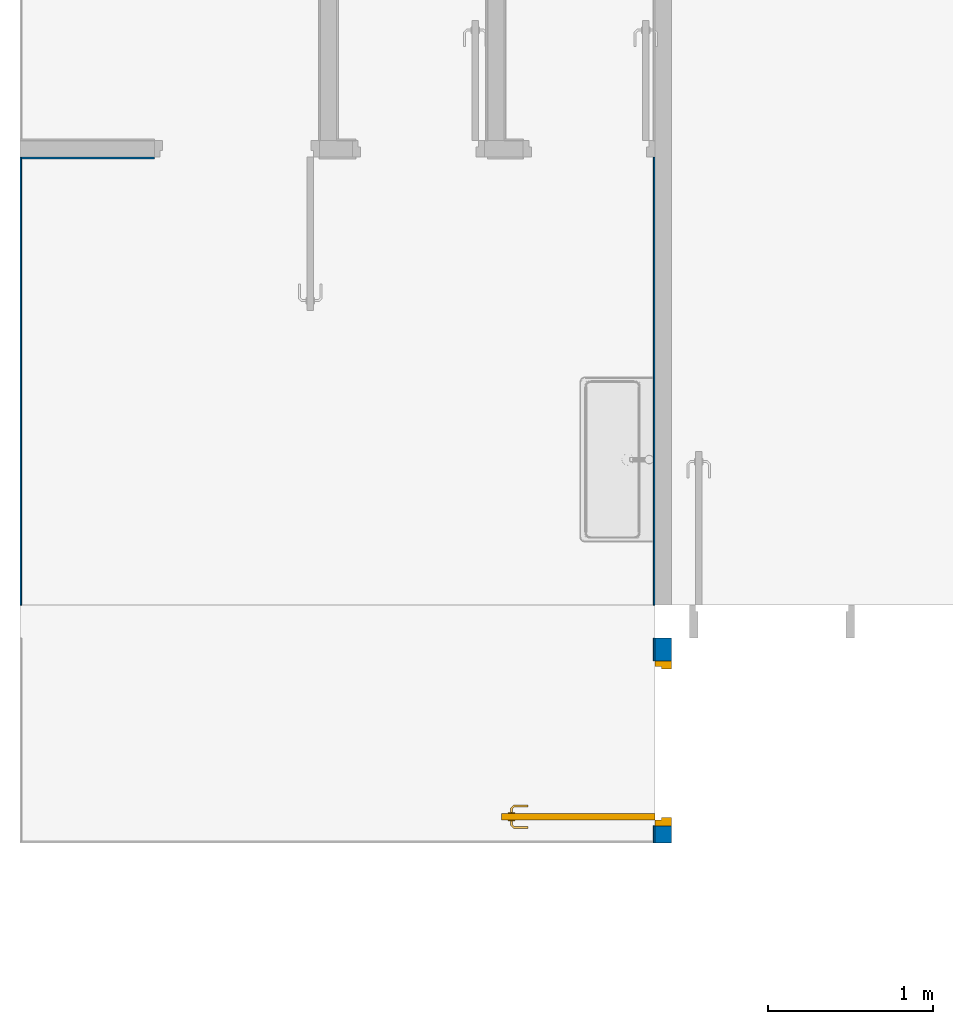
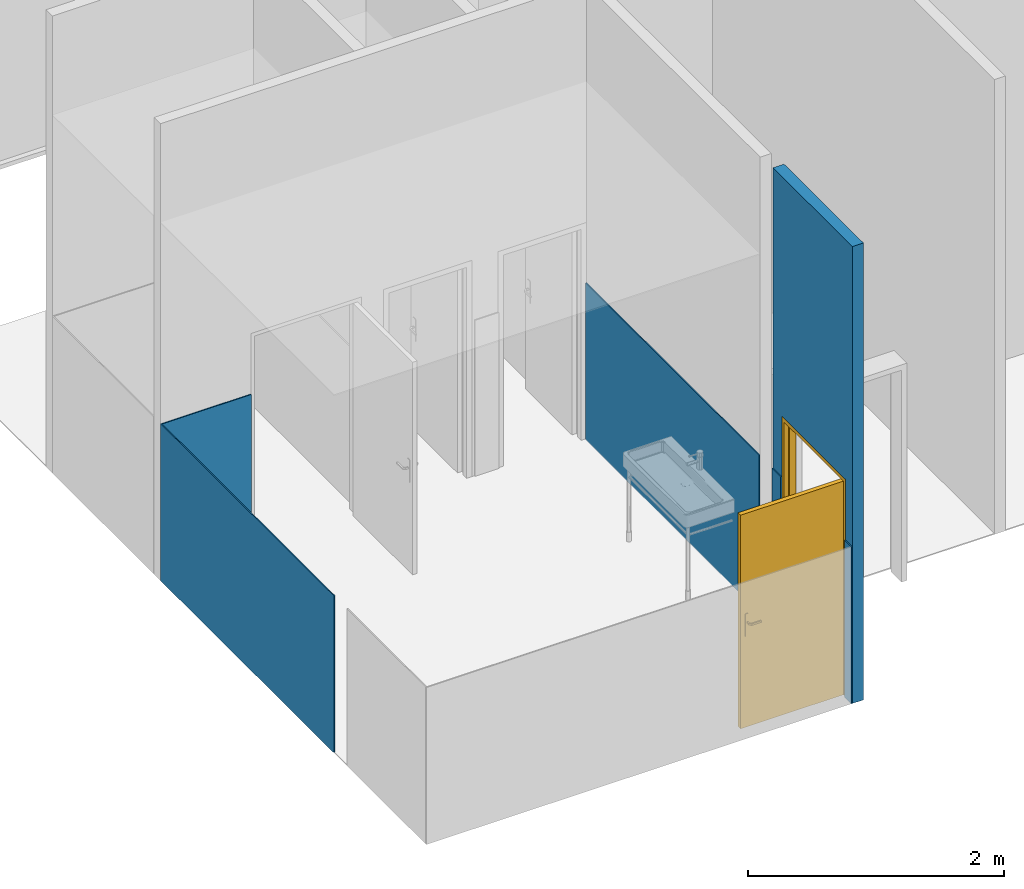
# One storey, part 2 of 18: 6 walls, 1 door, 2 openings.
"""IFC2X3 building model written with IfcOpenShell, lengths in metres."""

from ifc_helpers import new_model, entity, si_unit, converted_unit, derived_unit, direction, frame, frame_2d, origin, place, context, subcontext, project, spatial, rectangle, extrude, faceted_brep, source, transform, mapped, material, layer, layer_set, layer_usage, type_object, type_shapes, element, fill, save


model = new_model("IFC2X3")

# Units and contexts
model_context = context("Model", 3, precision=1e-05, world=origin(), true_north=direction((6.12303176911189e-17, 1.0)))
body_context = subcontext(model_context, "Body", "Model", "MODEL_VIEW")
ifc_project = project(units=[si_unit("LENGTHUNIT", "METRE"), si_unit("AREAUNIT", "SQUARE_METRE"), si_unit("VOLUMEUNIT", "CUBIC_METRE"), converted_unit("PLANEANGLEUNIT", "DEGREE", entity("IfcRatioMeasure", 0.0174532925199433), si_unit("PLANEANGLEUNIT", "RADIAN"), dimensions=[0, 0, 0, 0, 0, 0, 0]), si_unit("MASSUNIT", "GRAM", prefix="KILO"), derived_unit("MASSDENSITYUNIT", [(si_unit("MASSUNIT", "GRAM", prefix="KILO"), 1), (si_unit("LENGTHUNIT", "METRE"), -3)]), si_unit("TIMEUNIT", "SECOND"), si_unit("FREQUENCYUNIT", "HERTZ"), si_unit("THERMODYNAMICTEMPERATUREUNIT", "DEGREE_CELSIUS"), derived_unit("THERMALTRANSMITTANCEUNIT", [(si_unit("MASSUNIT", "GRAM", prefix="KILO"), 1), (si_unit("THERMODYNAMICTEMPERATUREUNIT", "KELVIN"), -1), (si_unit("TIMEUNIT", "SECOND"), -3)]), derived_unit("VOLUMETRICFLOWRATEUNIT", [(si_unit("LENGTHUNIT", "METRE"), 3), (si_unit("TIMEUNIT", "SECOND"), -1)]), si_unit("ELECTRICCURRENTUNIT", "AMPERE"), si_unit("ELECTRICVOLTAGEUNIT", "VOLT"), si_unit("POWERUNIT", "WATT"), si_unit("FORCEUNIT", "NEWTON", prefix="KILO"), si_unit("ILLUMINANCEUNIT", "LUX"), si_unit("LUMINOUSFLUXUNIT", "LUMEN"), si_unit("LUMINOUSINTENSITYUNIT", "CANDELA"), derived_unit("USERDEFINED", [(si_unit("MASSUNIT", "GRAM", prefix="KILO"), -1), (si_unit("LENGTHUNIT", "METRE"), -2), (si_unit("TIMEUNIT", "SECOND"), 3), (si_unit("LUMINOUSFLUXUNIT", "LUMEN"), 1)]), derived_unit("LINEARVELOCITYUNIT", [(si_unit("LENGTHUNIT", "METRE"), 1), (si_unit("TIMEUNIT", "SECOND"), -1)]), si_unit("PRESSUREUNIT", "PASCAL"), derived_unit("USERDEFINED", [(si_unit("LENGTHUNIT", "METRE"), -2), (si_unit("MASSUNIT", "GRAM", prefix="KILO"), 1), (si_unit("TIMEUNIT", "SECOND"), -2)])], contexts=[model_context])

# Site, building, storey
site_placement = place(None, origin())
site = spatial("IfcSite", under=ifc_project, at=site_placement, Name="Surface", CompositionType="ELEMENT")
building_placement = place(site_placement, origin())
building = spatial("IfcBuilding", under=site, at=building_placement, Name="ExPREF", CompositionType="ELEMENT")
storey_placement = place(building_placement, frame((0.0, 0.0, -4.62)))
storey = spatial("IfcBuildingStorey", under=building, at=storey_placement, Name="R-1", CompositionType="ELEMENT", Elevation=-4.62)

# Wall, opening, door
ifc_material_1 = material(Name="AA-parpaing")
ifc_layer_1 = layer(ifc_material_1, 0.1)
ifc_layer_set_1 = layer_set([ifc_layer_1], Name="Mur de base:A-mur parpaing 10")
ifc_layer_usage_1 = layer_usage(ifc_layer_set_1, "AXIS2", "NEGATIVE", 0.05)
wall_type_1 = type_object("IfcWallType", Name="Mur de base:A-mur parpaing 10", PredefinedType="STANDARD", material=ifc_layer_set_1)
wall_1_placement = place(storey_placement, frame((37.4897436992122, -194.701320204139, 0.0), z_axis=(0.0, 0.0, 1.0), x_axis=(0.0, 1.0, 0.0)))
wall_1 = element("IfcWallStandardCase", 1, at=wall_1_placement, inside=storey, type_object=wall_type_1, material=ifc_layer_usage_1, Name="Mur de base:A-mur parpaing 10", ObjectType="Mur de base:A-mur parpaing 10", context=body_context, shape_type="SweptSolid", body=[
    extrude(rectangle(XDim=1.24166890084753, YDim=0.100000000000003, at=frame_2d((0.620834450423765, 0.0), x_axis=(-1.0, 0.0))), origin(), (0.0, 0.0, 1.0), 4.3649999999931),
])
opening_1_placement = place(wall_1_placement, frame((0.103718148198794, -0.05, 0.0)))
opening_1 = element("IfcOpeningElement", 2, at=opening_1_placement, cuts=wall_1, Name="Porte intérieur bois:PP (0.93m x 2.04m):1", ObjectType="Opening", context=body_context, shape_type="SweptSolid", body=[
    extrude(rectangle(XDim=2.075, YDim=1.0, at=frame_2d((1.0375, 0.5), x_axis=(1.0, 0.0))), frame((0.0, 0.0, 0.0), z_axis=(0.0, 1.0, 0.0), x_axis=(0.0, 0.0, 1.0)), (0.0, 0.0, 1.0), 0.1),
])
ifc_material_2 = material(Name="AA-Blanc satiné")
door_style = type_object("IfcDoorStyle", Name="PP (0.93m x 2.04m)", ConstructionType="NOTDEFINED", OperationType="SINGLE_SWING_LEFT", ParameterTakesPrecedence=False, Sizeable=False, material=ifc_material_2)
shared_shape = source(origin(), body_context, "Body", "Brep", [
    faceted_brep([(0.919999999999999, -0.872025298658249, 1.00778044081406), (0.919999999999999, -0.876000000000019, 1.007), (0.919999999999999, -0.876000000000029, 0.992999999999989), (0.919999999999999, -0.872025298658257, 0.99221955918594), (0.919999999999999, -0.867974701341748, 0.992219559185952), (0.919999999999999, -0.863999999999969, 0.993000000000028), (0.919999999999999, -0.86399999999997, 1.007), (0.919999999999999, -0.867974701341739, 1.00778044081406), (0.897514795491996, -0.863999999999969, 0.993000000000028), (0.897514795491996, -0.863999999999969, 1.007), (0.895868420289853, -0.867974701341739, 1.00778044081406), (0.882054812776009, -0.854161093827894, 1.00778044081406), (0.8780042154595, -0.855838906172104, 1.00778044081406), (0.894190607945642, -0.872025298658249, 1.00778044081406), (0.892544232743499, -0.876000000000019, 1.007), (0.892544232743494, -0.876000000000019, 0.992999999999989), (0.894190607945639, -0.872025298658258, 0.99221955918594), (0.87800421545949, -0.855838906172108, 0.99221955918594), (0.882054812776, -0.854161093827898, 0.992219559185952), (0.895868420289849, -0.867974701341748, 0.992219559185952), (0.886029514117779, -0.852514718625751, 0.993000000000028), (0.886029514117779, -0.852514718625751, 1.007), (0.87402951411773, -0.857485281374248, 1.007), (0.874029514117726, -0.857485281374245, 0.992999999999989), (0.886029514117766, -0.769954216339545, 0.993000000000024), (0.882054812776, -0.769954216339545, 0.992219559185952), (0.87800421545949, -0.769954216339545, 0.99221955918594), (0.874029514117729, -0.769954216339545, 0.992999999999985), (0.87402951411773, -0.769954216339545, 1.007), (0.878004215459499, -0.769954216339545, 1.00778044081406), (0.882054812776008, -0.769954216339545, 1.00778044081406), (0.886029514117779, -0.769954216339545, 1.007), (0.886029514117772, -0.811234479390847, 0.993000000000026), (0.886029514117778, -0.811234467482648, 1.007), (0.880029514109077, -0.812057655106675, 1.0078786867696), (0.87402951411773, -0.81755479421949, 1.007), (0.874029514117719, -0.8175547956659, 0.992999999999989), (0.880029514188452, -0.812057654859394, 0.992121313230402)], [[[0, 1, 2, 3, 4, 5, 6, 7]], [[6, 5, 8, 9]], [[9, 10, 7, 6]], [[10, 11, 12, 13, 0, 7]], [[13, 14, 1, 0]], [[2, 1, 14, 15]], [[15, 16, 3, 2]], [[16, 17, 18, 19, 4, 3]], [[19, 8, 5, 4]], [[9, 8, 20, 21]], [[21, 11, 10, 9]], [[12, 22, 14, 13]], [[15, 14, 22, 23]], [[23, 17, 16, 15]], [[18, 20, 8, 19]], [[24, 25, 26, 27, 28, 29, 30, 31]], [[21, 20, 32, 24, 31, 33]], [[33, 30, 34]], [[35, 34, 29]], [[21, 33, 11]], [[33, 31, 30]], [[28, 35, 29]], [[22, 12, 35]], [[35, 12, 34]], [[12, 11, 34]], [[11, 33, 34]], [[29, 34, 30]], [[22, 35, 28, 27, 36, 23]], [[36, 26, 37]], [[27, 26, 36]], [[17, 23, 36]], [[37, 32, 18]], [[20, 18, 32]], [[32, 25, 24]], [[26, 25, 37]], [[25, 32, 37]], [[17, 36, 37]], [[17, 37, 18]]]),
    faceted_brep([(0.969999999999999, -0.872025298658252, 1.00778044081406), (0.969999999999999, -0.867974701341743, 1.00778044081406), (0.969999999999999, -0.863999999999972, 1.00699999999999), (0.969999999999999, -0.863999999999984, 0.993000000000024), (0.969999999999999, -0.867974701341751, 0.992219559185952), (0.969999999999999, -0.87202529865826, 0.99221955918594), (0.969999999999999, -0.876000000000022, 0.992999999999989), (0.969999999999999, -0.876000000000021, 1.007), (0.997650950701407, -0.876000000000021, 1.007), (0.996004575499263, -0.872025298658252, 1.00778044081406), (1.01205345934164, -0.855976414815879, 1.00778044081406), (1.00800286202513, -0.854298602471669, 1.00778044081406), (0.994326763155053, -0.867974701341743, 1.00778044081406), (0.992680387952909, -0.863999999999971, 1.007), (0.992680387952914, -0.863999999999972, 0.993000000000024), (0.994326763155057, -0.867974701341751, 0.992219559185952), (1.00800286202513, -0.854298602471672, 0.992219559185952), (1.01205345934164, -0.855976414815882, 0.99221955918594), (0.996004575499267, -0.87202529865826, 0.99221955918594), (0.997650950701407, -0.876000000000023, 0.992999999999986), (1.0160281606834, -0.857622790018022, 1.007), (1.00402816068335, -0.852652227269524, 1.007), (1.00402816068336, -0.852652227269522, 0.993000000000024), (1.01602816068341, -0.857622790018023, 0.992999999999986), (1.01602816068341, -0.769981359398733, 0.992999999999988), (1.01205345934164, -0.769981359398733, 0.99221955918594), (1.00800286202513, -0.769981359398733, 0.992219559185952), (1.00402816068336, -0.769981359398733, 0.993000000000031), (1.00402816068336, -0.769981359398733, 1.007), (1.00800286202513, -0.769981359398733, 1.00778044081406), (1.01205345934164, -0.769981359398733, 1.00778044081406), (1.01602816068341, -0.769981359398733, 1.00699999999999), (1.01602816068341, -0.817692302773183, 1.007), (1.01002816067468, -0.812139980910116, 1.0078786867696), (1.00402816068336, -0.811316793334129, 1.007), (1.00402816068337, -0.811316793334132, 0.993000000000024), (1.01002816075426, -0.812139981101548, 0.992121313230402), (1.01602816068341, -0.817692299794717, 0.992999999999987)], [[[0, 1, 2, 3, 4, 5, 6, 7]], [[8, 9, 0, 7]], [[9, 10, 11, 12, 1, 0]], [[12, 13, 2, 1]], [[3, 2, 13, 14]], [[14, 15, 4, 3]], [[15, 16, 17, 18, 5, 4]], [[18, 19, 6, 5]], [[7, 6, 19, 8]], [[20, 10, 9, 8]], [[11, 21, 13, 12]], [[14, 13, 21, 22]], [[22, 16, 15, 14]], [[17, 23, 19, 18]], [[8, 19, 23, 20]], [[24, 25, 26, 27, 28, 29, 30, 31]], [[32, 30, 33]], [[31, 30, 32]], [[10, 20, 32]], [[33, 34, 11]], [[21, 11, 34]], [[34, 29, 28]], [[30, 29, 33]], [[29, 34, 33]], [[10, 32, 33]], [[10, 33, 11]], [[22, 21, 34, 28, 27, 35]], [[35, 26, 36]], [[37, 36, 25]], [[22, 35, 16]], [[35, 27, 26]], [[24, 37, 25]], [[23, 17, 37]], [[37, 17, 36]], [[17, 16, 36]], [[16, 35, 36]], [[25, 36, 26]], [[20, 23, 37, 24, 31, 32]]]),
    faceted_brep([(0.924999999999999, -0.859647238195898, 0.866003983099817), (0.924999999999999, -0.849999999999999, 0.870000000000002), (0.924999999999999, -0.850000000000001, 1.08), (0.924999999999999, -0.8596472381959, 1.08399601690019), (0.924999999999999, -0.870000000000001, 1.08535898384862), (0.924999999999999, -0.880352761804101, 1.08399601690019), (0.924999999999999, -0.89, 1.08), (0.924999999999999, -0.889999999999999, 0.870000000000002), (0.924999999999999, -0.8803527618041, 0.866003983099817), (0.924999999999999, -0.869999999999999, 0.86464101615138), (0.919999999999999, -0.8596472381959, 1.08399601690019), (0.92, -0.850000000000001, 1.08), (0.92, -0.849999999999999, 0.870000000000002), (0.919999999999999, -0.859647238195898, 0.866003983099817), (0.919999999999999, -0.869999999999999, 0.86464101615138), (0.919999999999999, -0.8803527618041, 0.866003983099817), (0.919999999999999, -0.89, 0.870000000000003), (0.919999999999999, -0.89, 1.08), (0.919999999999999, -0.880352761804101, 1.08399601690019), (0.919999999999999, -0.870000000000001, 1.08535898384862)], [[[0, 1, 2, 3, 4, 5, 6, 7, 8, 9]], [[10, 11, 12, 13, 14, 15, 16, 17, 18, 19]], [[11, 10, 3, 2]], [[3, 10, 19, 4]], [[19, 18, 5, 4]], [[18, 17, 6, 5]], [[7, 6, 17, 16]], [[16, 15, 8, 7]], [[8, 15, 14, 9]], [[14, 13, 0, 9]], [[13, 12, 1, 0]], [[2, 1, 12, 11]]]),
    faceted_brep([(0.969999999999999, -0.859647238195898, 0.866003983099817), (0.969999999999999, -0.849999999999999, 0.870000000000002), (0.969999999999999, -0.850000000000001, 1.08), (0.969999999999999, -0.8596472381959, 1.08399601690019), (0.969999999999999, -0.87, 1.08535898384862), (0.969999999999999, -0.880352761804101, 1.08399601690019), (0.969999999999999, -0.89, 1.08), (0.969999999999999, -0.889999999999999, 0.870000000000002), (0.969999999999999, -0.8803527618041, 0.866003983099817), (0.969999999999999, -0.869999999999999, 0.86464101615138), (0.964999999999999, -0.8596472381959, 1.08399601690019), (0.965, -0.850000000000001, 1.08), (0.965, -0.849999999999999, 0.870000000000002), (0.964999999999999, -0.859647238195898, 0.866003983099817), (0.964999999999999, -0.869999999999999, 0.86464101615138), (0.964999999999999, -0.8803527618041, 0.866003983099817), (0.964999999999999, -0.89, 0.870000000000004), (0.964999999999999, -0.89, 1.08), (0.964999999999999, -0.880352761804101, 1.08399601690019), (0.964999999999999, -0.87, 1.08535898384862)], [[[0, 1, 2, 3, 4, 5, 6, 7, 8, 9]], [[10, 11, 12, 13, 14, 15, 16, 17, 18, 19]], [[16, 15, 8, 7]], [[8, 15, 14, 9]], [[14, 13, 0, 9]], [[13, 12, 1, 0]], [[2, 1, 12, 11]], [[11, 10, 3, 2]], [[3, 10, 19, 4]], [[19, 18, 5, 4]], [[18, 17, 6, 5]], [[7, 6, 17, 16]]]),
    faceted_brep([(0.924999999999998, -0.93, 2.04), (0.924999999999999, 0.0, 2.04), (0.924999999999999, 0.0, 0.0), (0.924999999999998, -0.93, 0.0), (0.964999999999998, -0.93, 2.04), (0.964999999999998, -0.93, 0.0), (0.965, 0.0, 0.0), (0.965, 0.0, 2.04)], [[[0, 1, 2, 3]], [[4, 5, 6, 7]], [[1, 0, 4, 7]], [[2, 1, 7, 6]], [[3, 2, 6, 5]], [[0, 3, 5, 4]]]),
    faceted_brep([(0.0, 0.0, 0.0), (0.0, 0.100000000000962, 0.0), (0.0499999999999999, 0.100000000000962, 0.0), (0.0499999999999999, 0.0400000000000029, 0.0), (0.0349999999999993, 0.0400000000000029, 0.0), (0.0349999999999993, 0.0, 0.0), (0.0, 0.0, 2.07500000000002), (0.0, 0.100000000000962, 2.07500000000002), (1.0, 0.100000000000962, 2.07500000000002), (1.0, 0.100000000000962, 0.0), (0.95, 0.100000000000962, 0.0), (0.95, 0.100000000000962, 2.025), (0.0500000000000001, 0.100000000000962, 2.025), (0.05, 0.0400000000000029, 2.025), (0.95, 0.0400000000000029, 2.025), (0.95, 0.0400000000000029, 0.0), (0.965, 0.0400000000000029, 0.0), (0.965, 0.0400000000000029, 2.04), (0.0349999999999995, 0.0400000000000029, 2.04), (0.0349999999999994, 0.0, 2.04), (0.965, 0.0, 2.04), (0.965, 0.0, 0.0), (1.0, 0.0, 0.0), (1.0, 0.0, 2.07500000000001)], [[[0, 1, 2, 3, 4, 5]], [[1, 0, 6, 7]], [[2, 1, 7, 8, 9, 10, 11, 12]], [[3, 2, 12, 13]], [[4, 3, 13, 14, 15, 16, 17, 18]], [[5, 4, 18, 19]], [[0, 5, 19, 20, 21, 22, 23, 6]], [[8, 23, 22, 9]], [[22, 21, 16, 15, 10, 9]], [[14, 11, 10, 15]], [[20, 17, 16, 21]], [[7, 6, 23, 8]], [[13, 12, 11, 14]], [[19, 18, 17, 20]]]),
])
type_shapes(door_style, [shared_shape])
door_placement = place(opening_1_placement, frame((1.0, 0.100000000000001, 0.0), z_axis=(0.0, 0.0, 1.0), x_axis=(-1.0, 0.0, 0.0)))
door = element("IfcDoor", 3, at=door_placement, inside=storey, type_object=door_style, material=ifc_material_2, Name="Porte intérieur bois:PP (0.93m x 2.04m)", ObjectType="PP (0.93m x 2.04m)", OverallHeight=2.075, OverallWidth=1.00000000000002, context=body_context, shape_type="MappedRepresentation", body=[
    mapped(shared_shape, transform((0.0, 0.0, 0.0), scale=1.0)),
])
fill(opening_1, door)

# Walls
ifc_material_3 = material(Name="AA-sol carrelage")
ifc_layer_2 = layer(ifc_material_3, 0.01)
ifc_layer_set_2 = layer_set([ifc_layer_2], Name="Mur de base:A-carrelage")
ifc_layer_usage_2 = layer_usage(ifc_layer_set_2, "AXIS2", "NEGATIVE", 0.005)
wall_type_2 = type_object("IfcWallType", Name="Mur de base:A-carrelage", PredefinedType="STANDARD", material=ifc_layer_set_2)
wall_2_placement = place(storey_placement, frame((37.4347436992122, -194.59760205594, 0.0), z_axis=(0.0, 0.0, 1.0), x_axis=(0.0, -1.0, 0.0)))
element("IfcWallStandardCase", 4, at=wall_2_placement, inside=storey, type_object=wall_type_2, material=ifc_layer_usage_2, Name="Mur de base:A-carrelage", ObjectType="Mur de base:A-carrelage", context=body_context, shape_type="SweptSolid", body=[
    extrude(rectangle(XDim=0.10371814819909, YDim=0.00999999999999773, at=frame_2d((0.0518590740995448, 0.0), x_axis=(-1.0, 0.0))), origin(), (0.0, 0.0, 1.0), 1.5),
])
ifc_layer_usage_3 = layer_usage(ifc_layer_set_2, "AXIS2", "NEGATIVE", 0.005)
wall_3_placement = place(storey_placement, frame((33.5947436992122, -193.259651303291, 0.0), z_axis=(0.0, 0.0, 1.0), x_axis=(0.0, 1.0, 0.0)))
element("IfcWallStandardCase", 5, at=wall_3_placement, inside=storey, type_object=wall_type_2, material=ifc_layer_usage_3, Name="Mur de base:A-carrelage", ObjectType="Mur de base:A-carrelage", context=body_context, shape_type="SweptSolid", body=[
    extrude(rectangle(XDim=2.71618721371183, YDim=0.00999999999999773, at=frame_2d((1.35809360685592, 1.99493199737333e-17), x_axis=(-1.0, 0.0))), origin(), (0.0, 0.0, 1.0), 1.5),
])
ifc_layer_usage_4 = layer_usage(ifc_layer_set_2, "AXIS2", "NEGATIVE", 0.005)
wall_4_placement = place(storey_placement, frame((33.5997436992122, -190.54846408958, 0.0)))
element("IfcWallStandardCase", 6, at=wall_4_placement, inside=storey, type_object=wall_type_2, material=ifc_layer_usage_4, Name="Mur de base:A-carrelage", ObjectType="Mur de base:A-carrelage", context=body_context, shape_type="SweptSolid", body=[
    extrude(rectangle(XDim=0.805000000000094, YDim=0.0100000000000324, at=frame_2d((0.402500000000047, 1.06685493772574e-16), x_axis=(-1.0, 0.0))), origin(), (0.0, 0.0, 1.0), 1.5),
])

# Wall, opening
ifc_layer_usage_5 = layer_usage(ifc_layer_set_2, "AXIS2", "NEGATIVE", 0.005)
wall_5_placement = place(storey_placement, frame((37.4347436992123, -190.543464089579, 0.0), z_axis=(0.0, 0.0, 1.0), x_axis=(0.0, -1.0, 0.0)))
wall_5 = element("IfcWallStandardCase", 7, at=wall_5_placement, inside=storey, type_object=wall_type_2, material=ifc_layer_usage_5, Name="Mur de base:A-carrelage", ObjectType="Mur de base:A-carrelage", context=body_context, shape_type="SweptSolid", body=[
    extrude(rectangle(XDim=2.71618721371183, YDim=0.00999999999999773, at=frame_2d((1.35809360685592, -3.90312782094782e-17), x_axis=(-1.0, 0.0))), origin(), (0.0, 0.0, 1.0), 1.5),
])
opening_2_placement = place(wall_5_placement, frame((0.0, -0.795000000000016, 0.0)))
element("IfcOpeningElement", 8, at=opening_2_placement, cuts=wall_5, Name="Mur de base:A-carrelage", ObjectType="Opening", context=body_context, shape_type="SweptSolid", body=[
    extrude(rectangle(XDim=2.075, YDim=0.100000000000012, at=frame_2d((-1.73229486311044e-14, -3.33066907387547e-16), x_axis=(0.0, 1.0))), frame((-0.0500000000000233, 0.0, 1.0375), z_axis=(0.0, 1.0, 0.0), x_axis=(-1.0, 0.0, 0.0)), (0.0, 0.0, 1.0), 0.8),
])

# Wall
ifc_layer_usage_6 = layer_usage(ifc_layer_set_2, "AXIS2", "NEGATIVE", 0.005)
wall_6_placement = place(storey_placement, frame((37.4347436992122, -193.459651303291, 0.0), z_axis=(0.0, 0.0, 1.0), x_axis=(0.0, -1.0, 0.0)))
element("IfcWallStandardCase", 9, at=wall_6_placement, inside=storey, type_object=wall_type_2, material=ifc_layer_usage_6, Name="Mur de base:A-carrelage", ObjectType="Mur de base:A-carrelage", context=body_context, shape_type="SweptSolid", body=[
    extrude(rectangle(XDim=0.137950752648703, YDim=0.00999999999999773, at=frame_2d((0.0689753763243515, 0.0), x_axis=(-1.0, 0.0))), origin(), (0.0, 0.0, 1.0), 1.5),
])

save(model, "model.ifc")
